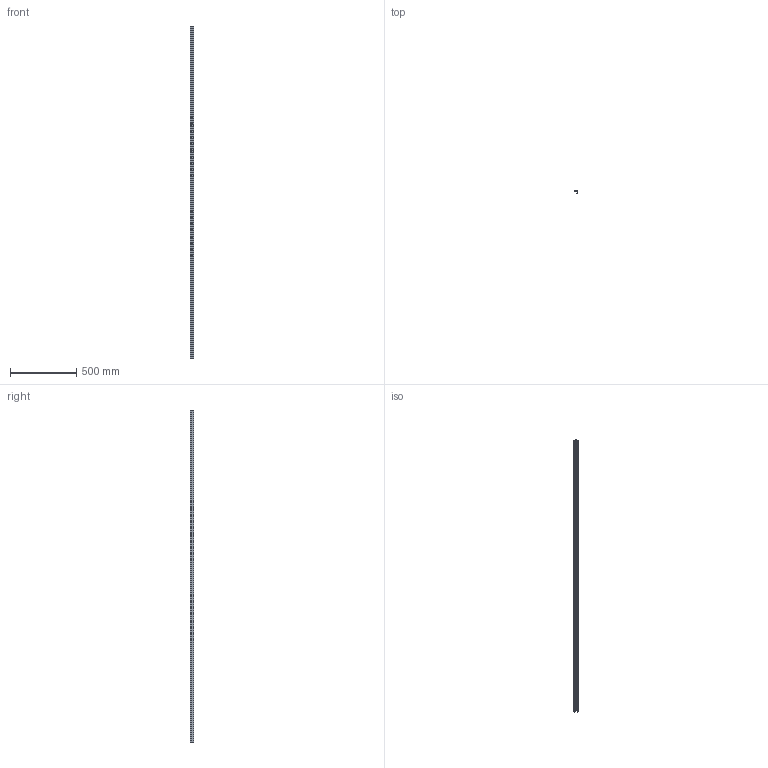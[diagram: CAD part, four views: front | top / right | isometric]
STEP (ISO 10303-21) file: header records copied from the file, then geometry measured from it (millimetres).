
FILE_DESCRIPTION(('STEP AP242'),'1');
FILE_NAME('OPO_51.047.39_volu_schn_3d.stp','2026-03-17T13:40:36',(' '),(' '),'Spatial InterOp 3D',' ',' ');
FILE_SCHEMA(('AP242_MANAGED_MODEL_BASED_3D_ENGINEERING_MIM_LF {1 0 10303 442 1 1 4}'));
Length unit declared in the file: millimetre
Products named in the file (1): 1
Bounding box: 24 x 25 x 2500 mm (x, y, z)
Volume: 302699.1 mm3; surface area: 336115.3 mm2
Topology: 1 solids, 1 shells, 77 faces, 386 edges, 490 vertices
Faces by surface type: plane 57, cylinder 20
Entity records: 5188 total; most frequent: CARTESIAN_POINT 605, DIRECTION 604, ORIENTED_EDGE 422, LINE 326, VECTOR 326, STYLED_ITEM 252, PRESENTATION_STYLE_ASSIGNMENT 252, COLOUR_RGB 252
